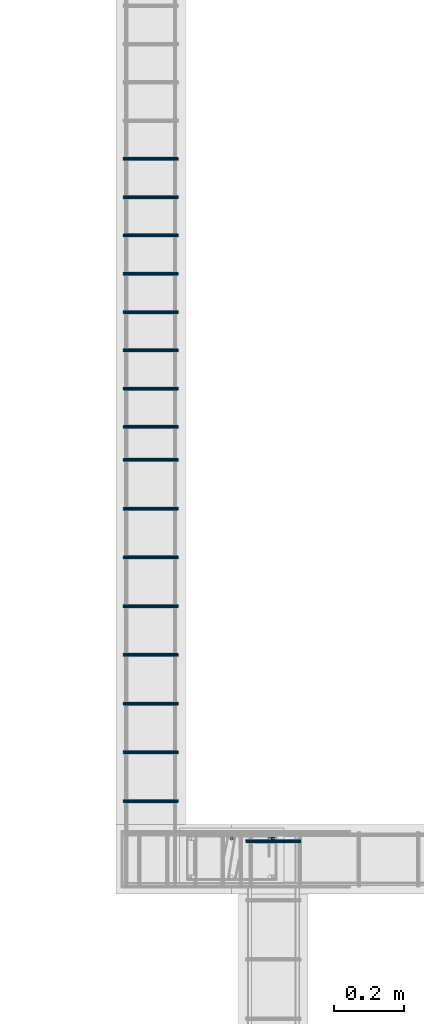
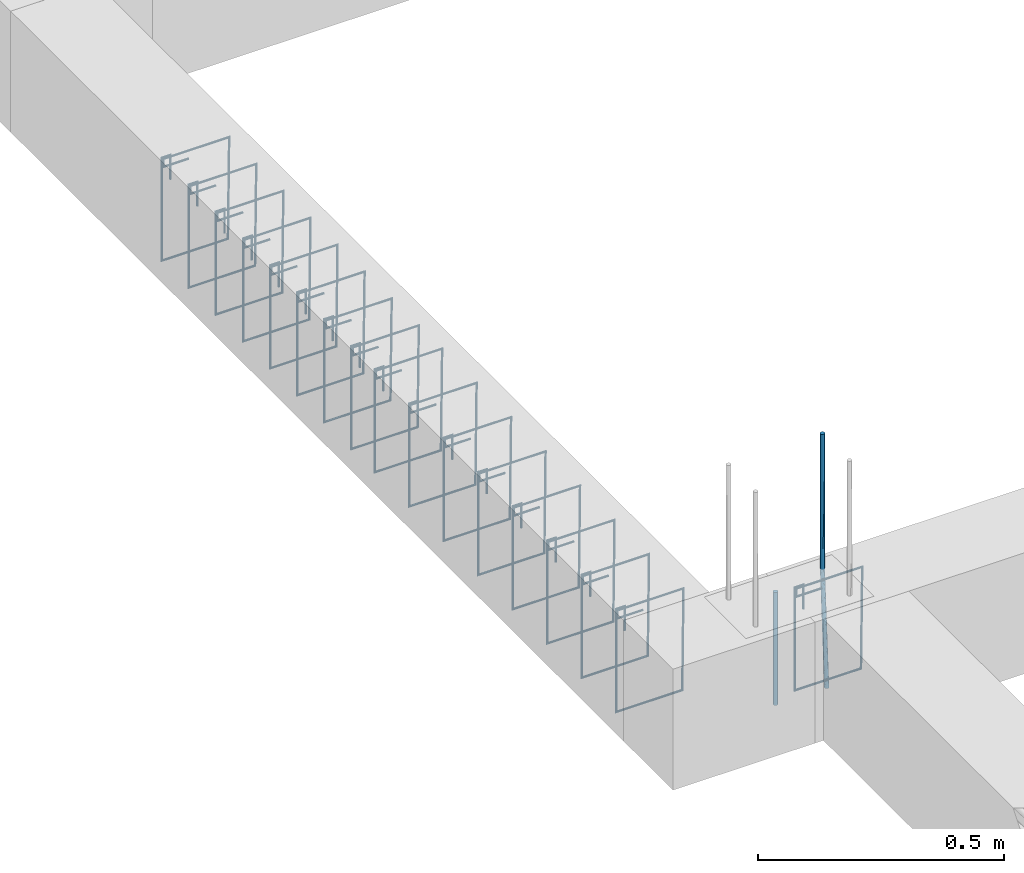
# One storey, part 111 of 150: 19 reinforcing bars.
"""IFC4 building model written with IfcOpenShell, lengths in centimetres."""

from ifc_helpers import new_model, entity, si_unit, derived_unit, frame, origin_with_axes, place, context, project, spatial, source, transform, mapped, element, save


model = new_model("IFC4")

# Units and contexts
model_context = context("Model", 3, precision=1e-05, world=origin_with_axes(), identifier="Body")
ifc_project = project(units=[si_unit("LENGTHUNIT", "METRE", prefix="CENTI"), si_unit("VOLUMEUNIT", "CUBIC_METRE"), si_unit("AREAUNIT", "SQUARE_METRE"), si_unit("POWERUNIT", "WATT"), si_unit("LUMINOUSFLUXUNIT", "LUMEN"), si_unit("ELECTRICCURRENTUNIT", "AMPERE"), si_unit("PRESSUREUNIT", "PASCAL", prefix="KILO"), si_unit("MASSUNIT", "GRAM", prefix="KILO"), si_unit("PLANEANGLEUNIT", "RADIAN"), derived_unit("VOLUMETRICFLOWRATEUNIT", [(si_unit("LENGTHUNIT", "METRE"), 3), (si_unit("TIMEUNIT", "SECOND"), -1)])], contexts=[model_context])

# Site, building, storey
site_placement = place(None, frame((-4000.0, 0.0, 0.0), z_axis=(0.0, 0.0, 1.0), x_axis=(1.0, 0.0, 0.0)))
site = spatial("IfcSite", under=ifc_project, at=site_placement, Name="PADRÃO")
building_placement = place(site_placement, frame((0.0, 0.0, -14.0)))
building = spatial("IfcBuilding", under=site, at=building_placement, Name="CRECHE PRÉ-ESCOLA TIPO 2")
placement = place(building_placement, origin_with_axes())
storey_placement = place(placement, frame((0.0, 0.0, 30.0), z_axis=(0.0, 0.0, 1.0), x_axis=(1.0, 0.0, 0.0)))
storey = spatial("IfcBuildingStorey", under=building, at=storey_placement, Name="VIGA BALDRAME", CompositionType="ELEMENT", Elevation=16.0)

# Reinforcing bars
shared_shape_1 = source(origin_with_axes(), model_context, "Body", "AdvancedSweptSolid", [
    entity("IfcSweptDiskSolid", entity("IfcCompositeCurve", [entity("IfcCompositeCurveSegment", "CONTINUOUS", True, entity("IfcPolyline", [entity("IfcCartesianPoint", [2.0, -6.0, 0.0]), entity("IfcCartesianPoint", [2.0, 0.0, 0.0])])), entity("IfcCompositeCurveSegment", "CONTINUOUS", True, entity("IfcPolyline", [entity("IfcCartesianPoint", [2.0, 0.0, 0.0]), entity("IfcCartesianPoint", [0.0, 0.0, 0.0])])), entity("IfcCompositeCurveSegment", "CONTINUOUS", True, entity("IfcPolyline", [entity("IfcCartesianPoint", [0.0, 0.0, 0.0]), entity("IfcCartesianPoint", [0.0, -25.5, 0.0])])), entity("IfcCompositeCurveSegment", "CONTINUOUS", True, entity("IfcPolyline", [entity("IfcCartesianPoint", [0.0, -25.5, 0.0]), entity("IfcCartesianPoint", [15.5, -25.5, 0.0])])), entity("IfcCompositeCurveSegment", "CONTINUOUS", True, entity("IfcPolyline", [entity("IfcCartesianPoint", [15.5, -25.5, 0.0]), entity("IfcCartesianPoint", [15.5, 0.0, 0.5])])), entity("IfcCompositeCurveSegment", "CONTINUOUS", True, entity("IfcPolyline", [entity("IfcCartesianPoint", [15.5, 0.0, 0.5]), entity("IfcCartesianPoint", [0.0, 0.0, 0.5])])), entity("IfcCompositeCurveSegment", "CONTINUOUS", True, entity("IfcPolyline", [entity("IfcCartesianPoint", [0.0, 0.0, 0.5]), entity("IfcCartesianPoint", [0.0, -2.0, 0.5])])), entity("IfcCompositeCurveSegment", "CONTINUOUS", True, entity("IfcPolyline", [entity("IfcCartesianPoint", [0.0, -2.0, 0.5]), entity("IfcCartesianPoint", [6.0, -2.0, 0.5])]))], False), 0.25),
])
for number, where, z_axis, x_axis, name in (
    (1, (235.99, 3315.02, -2.25), (0.0, -1.0, 0.0), (1.0, 0.0, 0.0), "V164 - Estribo"),
    (2, (235.99, 3217.02, -2.25), (0.0, -1.0, 0.0), (1.0, 0.0, 0.0), "V164 - Estribo"),
    (3, (235.99, 3231.02, -2.25), (0.0, -1.0, 0.0), (1.0, 0.0, 0.0), "V164 - Estribo"),
    (4, (235.99, 3245.02, -2.25), (0.0, -1.0, 0.0), (1.0, 0.0, 0.0), "V164 - Estribo"),
    (5, (235.99, 3259.02, -2.25), (0.0, -1.0, 0.0), (1.0, 0.0, 0.0), "V164 - Estribo"),
    (6, (235.99, 3273.02, -2.25), (0.0, -1.0, 0.0), (1.0, 0.0, 0.0), "V164 - Estribo"),
    (7, (235.99, 3287.02, -2.25), (0.0, -1.0, 0.0), (1.0, 0.0, 0.0), "V164 - Estribo"),
    (8, (235.99, 3301.02, -2.25), (0.0, -1.0, 0.0), (1.0, 0.0, 0.0), "V164 - Estribo"),
):
    element("IfcReinforcingBar", number, at=place(storey_placement, frame(where, z_axis=z_axis, x_axis=x_axis)), inside=storey, Name=name, BarLength=0.0, CrossSectionArea=1.9634954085e-05, NominalDiameter=0.5, PredefinedType="MAIN", context=model_context, shape_type="MappedRepresentation", body=[
        mapped(shared_shape_1, transform((0.0, 0.0, 0.0), scale=1.0)),
    ])
shared_shape_2 = source(origin_with_axes(), model_context, "Body", "AdvancedSweptSolid", [
    entity("IfcSweptDiskSolid", entity("IfcCompositeCurve", [entity("IfcCompositeCurveSegment", "CONTINUOUS", True, entity("IfcPolyline", [entity("IfcCartesianPoint", [2.0, -6.0, 0.0]), entity("IfcCartesianPoint", [2.0, 0.0, 0.0])])), entity("IfcCompositeCurveSegment", "CONTINUOUS", True, entity("IfcPolyline", [entity("IfcCartesianPoint", [2.0, 0.0, 0.0]), entity("IfcCartesianPoint", [0.0, 0.0, 0.0])])), entity("IfcCompositeCurveSegment", "CONTINUOUS", True, entity("IfcPolyline", [entity("IfcCartesianPoint", [0.0, 0.0, 0.0]), entity("IfcCartesianPoint", [0.0, -25.5, 0.0])])), entity("IfcCompositeCurveSegment", "CONTINUOUS", True, entity("IfcPolyline", [entity("IfcCartesianPoint", [0.0, -25.5, 0.0]), entity("IfcCartesianPoint", [15.5, -25.5, 0.0])])), entity("IfcCompositeCurveSegment", "CONTINUOUS", True, entity("IfcPolyline", [entity("IfcCartesianPoint", [15.5, -25.5, 0.0]), entity("IfcCartesianPoint", [15.5, 0.0, 0.5])])), entity("IfcCompositeCurveSegment", "CONTINUOUS", True, entity("IfcPolyline", [entity("IfcCartesianPoint", [15.5, 0.0, 0.5]), entity("IfcCartesianPoint", [0.0, 0.0, 0.5])])), entity("IfcCompositeCurveSegment", "CONTINUOUS", True, entity("IfcPolyline", [entity("IfcCartesianPoint", [0.0, 0.0, 0.5]), entity("IfcCartesianPoint", [0.0, -2.0, 0.5])])), entity("IfcCompositeCurveSegment", "CONTINUOUS", True, entity("IfcPolyline", [entity("IfcCartesianPoint", [0.0, -2.0, 0.5]), entity("IfcCartesianPoint", [6.0, -2.0, 0.5])]))], False), 0.25),
])
for number, where, z_axis, x_axis, name in (
    (9, (235.99, 3335.51, -2.25), (0.0, -1.0, 0.0), (1.0, 0.0, 0.0), "V164 - Estribo"),
    (10, (235.99, 3357.51, -2.25), (0.0, -1.0, 0.0), (1.0, 0.0, 0.0), "V164 - Estribo"),
    (11, (235.99, 3346.51, -2.25), (0.0, -1.0, 0.0), (1.0, 0.0, 0.0), "V164 - Estribo"),
    (12, (235.99, 3379.51, -2.25), (0.0, -1.0, 0.0), (1.0, 0.0, 0.0), "V164 - Estribo"),
    (13, (235.99, 3324.51, -2.25), (0.0, -1.0, 0.0), (1.0, 0.0, 0.0), "V164 - Estribo"),
    (14, (235.99, 3390.51, -2.25), (0.0, -1.0, 0.0), (1.0, 0.0, 0.0), "V164 - Estribo"),
    (15, (235.99, 3401.51, -2.25), (0.0, -1.0, 0.0), (1.0, 0.0, 0.0), "V164 - Estribo"),
    (16, (235.99, 3368.51, -2.25), (0.0, -1.0, 0.0), (1.0, 0.0, 0.0), "V164 - Estribo"),
):
    element("IfcReinforcingBar", number, at=place(storey_placement, frame(where, z_axis=z_axis, x_axis=x_axis)), inside=storey, Name=name, BarLength=0.0, CrossSectionArea=1.9634954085e-05, NominalDiameter=0.5, PredefinedType="MAIN", context=model_context, shape_type="MappedRepresentation", body=[
        mapped(shared_shape_2, transform((0.0, 0.0, 0.0), scale=1.0)),
    ])
shared_shape_3 = source(origin_with_axes(), model_context, "Body", "AdvancedSweptSolid", [
    entity("IfcSweptDiskSolid", entity("IfcCompositeCurve", [entity("IfcCompositeCurveSegment", "CONTINUOUS", True, entity("IfcPolyline", [entity("IfcCartesianPoint", [2.0, -6.0, 0.0]), entity("IfcCartesianPoint", [2.0, 0.0, 0.0])])), entity("IfcCompositeCurveSegment", "CONTINUOUS", True, entity("IfcPolyline", [entity("IfcCartesianPoint", [2.0, 0.0, 0.0]), entity("IfcCartesianPoint", [0.0, 0.0, 0.0])])), entity("IfcCompositeCurveSegment", "CONTINUOUS", True, entity("IfcPolyline", [entity("IfcCartesianPoint", [0.0, 0.0, 0.0]), entity("IfcCartesianPoint", [0.0, -25.5, 0.0])])), entity("IfcCompositeCurveSegment", "CONTINUOUS", True, entity("IfcPolyline", [entity("IfcCartesianPoint", [0.0, -25.5, 0.0]), entity("IfcCartesianPoint", [15.5, -25.5, 0.0])])), entity("IfcCompositeCurveSegment", "CONTINUOUS", True, entity("IfcPolyline", [entity("IfcCartesianPoint", [15.5, -25.5, 0.0]), entity("IfcCartesianPoint", [15.5, 0.0, 0.5])])), entity("IfcCompositeCurveSegment", "CONTINUOUS", True, entity("IfcPolyline", [entity("IfcCartesianPoint", [15.5, 0.0, 0.5]), entity("IfcCartesianPoint", [0.0, 0.0, 0.5])])), entity("IfcCompositeCurveSegment", "CONTINUOUS", True, entity("IfcPolyline", [entity("IfcCartesianPoint", [0.0, 0.0, 0.5]), entity("IfcCartesianPoint", [0.0, -2.0, 0.5])])), entity("IfcCompositeCurveSegment", "CONTINUOUS", True, entity("IfcPolyline", [entity("IfcCartesianPoint", [0.0, -2.0, 0.5]), entity("IfcCartesianPoint", [6.0, -2.0, 0.5])]))], False), 0.25),
])
reinforcing_bar_1_placement = place(storey_placement, frame((271.25, 3205.505, -2.25), z_axis=(0.0, -1.0, 0.0), x_axis=(1.0, 0.0, 0.0)))
element("IfcReinforcingBar", 17, at=reinforcing_bar_1_placement, inside=storey, Name="V163 - Estribo", BarLength=0.0, CrossSectionArea=1.9634954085e-05, NominalDiameter=0.5, PredefinedType="MAIN", context=model_context, shape_type="MappedRepresentation", body=[
    mapped(shared_shape_3, transform((0.0, 0.0, 0.0), scale=1.0)),
])
reinforcing_bar_2_placement = place(storey_placement, frame((267.0, 3206.0, -2.0), z_axis=(0.0, 0.0, 1.0), x_axis=(1.0, 0.0, 0.0)))
element("IfcReinforcingBar", 18, at=reinforcing_bar_2_placement, inside=storey, Name="P47 - Longitudinal", BarLength=0.0, CrossSectionArea=7.853981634e-05, NominalDiameter=1.0, PredefinedType="MAIN", context=model_context, shape_type="AdvancedSweptSolid", body=[
    entity("IfcSweptDiskSolid", entity("IfcCompositeCurve", [entity("IfcCompositeCurveSegment", "CONTINUOUS", True, entity("IfcPolyline", [entity("IfcCartesianPoint", [0.0, 0.0, -28.0]), entity("IfcCartesianPoint", [0.0, 0.0, 0.0])]))], False), 0.5),
])
reinforcing_bar_3_placement = place(storey_placement, frame((278.499861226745, 3206.0, 33.3573001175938), z_axis=(0.0, 0.0, 1.0), x_axis=(1.0, 0.0, 0.0)))
element("IfcReinforcingBar", 19, at=reinforcing_bar_3_placement, inside=storey, Name="P47 - Longitudinal", BarLength=0.0, CrossSectionArea=7.853981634e-05, NominalDiameter=1.0, PredefinedType="MAIN", context=model_context, shape_type="AdvancedSweptSolid", body=[
    entity("IfcSweptDiskSolid", entity("IfcCompositeCurve", [entity("IfcCompositeCurveSegment", "CONTINUOUS", True, entity("IfcPolyline", [entity("IfcCartesianPoint", [0.50013877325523, 0.0, -63.3573001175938]), entity("IfcCartesianPoint", [-0.49986122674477, 0.0, -33.3573001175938])])), entity("IfcCompositeCurveSegment", "CONTINUOUS", True, entity("IfcPolyline", [entity("IfcCartesianPoint", [-0.49986122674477, 0.0, -33.3573001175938]), entity("IfcCartesianPoint", [-0.49986122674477, 0.0, 0.0])]))], False), 0.5),
])

save(model, "model.ifc")
